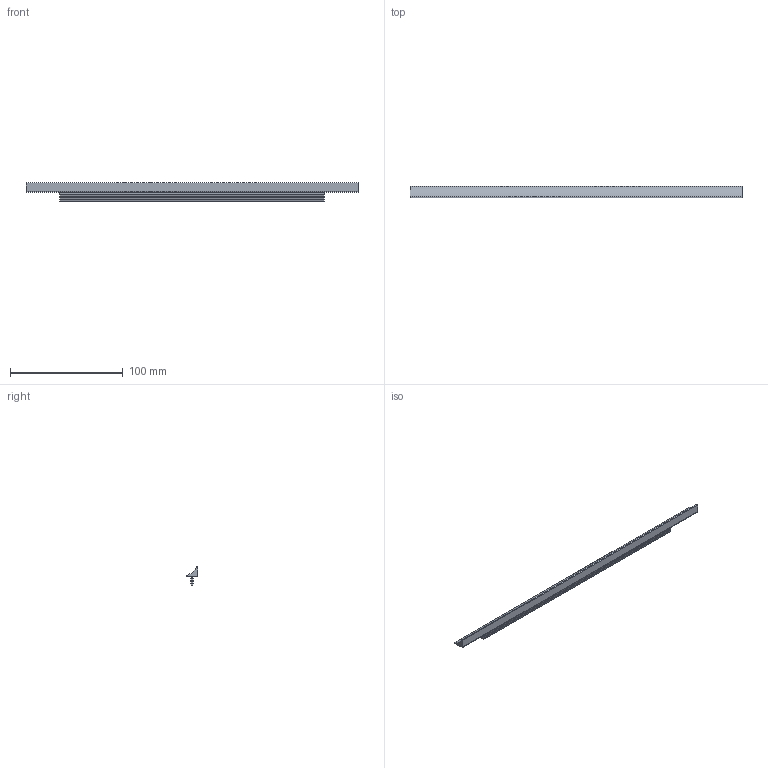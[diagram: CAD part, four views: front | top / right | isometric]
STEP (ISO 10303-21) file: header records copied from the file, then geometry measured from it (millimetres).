
FILE_DESCRIPTION( ( 'STEP AP214' ), '1' );
FILE_NAME( 'C:/Users/KOSH/Desktop/2021/Sunil/New folder/9208097.stp', '2021-11-15T12:53:24', ( '' ), ( '' ), ' ', 'PARTsolutions', ' ' );
FILE_SCHEMA( ( 'AUTOMOTIVE_DESIGN { 1 0 10303 214 1 1 1 1 }' ) );
Length unit declared in the file: millimetre
Products named in the file (1): _9208097
Bounding box: 295 x 10.5 x 16.51 mm (x, y, z)
Volume: 15440.9 mm3; surface area: 14296.4 mm2
Topology: 1 solids, 1 shells, 29 faces, 78 edges, 52 vertices
Faces by surface type: plane 25, cylinder 4
Entity records: 1148 total; most frequent: CARTESIAN_POINT 160, ORIENTED_EDGE 156, DIRECTION 146, EDGE_CURVE 78, LINE 70, VECTOR 70, VERTEX_POINT 52, AXIS2_PLACEMENT_3D 38
